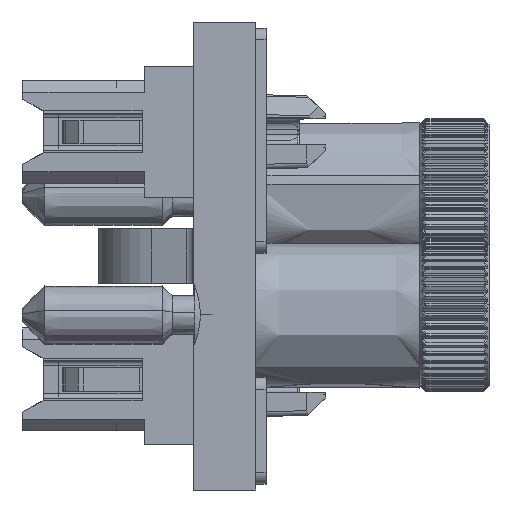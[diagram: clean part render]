
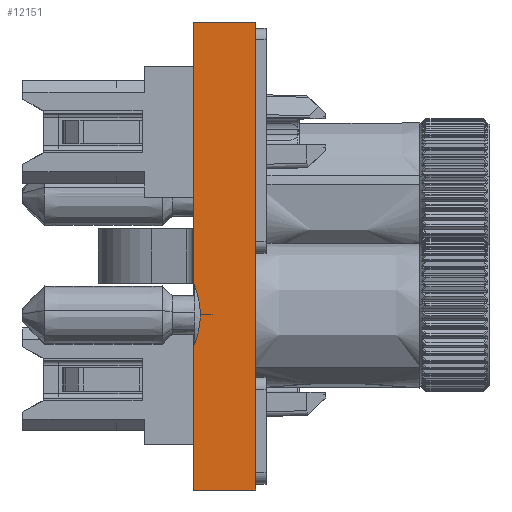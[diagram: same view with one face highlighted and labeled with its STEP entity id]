
A CAD part, front view. The second image highlights one B-rep face of the part: STEP entity #12151.
In plain terms, the highlighted planar face has unit normal (0, -1, 0).
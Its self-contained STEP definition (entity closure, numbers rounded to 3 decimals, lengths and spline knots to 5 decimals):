
#931=DIRECTION('',(0.,0.,-1.));
#932=VECTOR('',#931,0.27032);
#933=CARTESIAN_POINT('',(0.125,-0.56498,0.11509));
#934=LINE('',#933,#932);
#939=CARTESIAN_POINT('',(0.125,-0.56498,0.11509));
#983=DIRECTION('',(0.,0.,-1.));
#984=VECTOR('',#983,0.46975);
#985=CARTESIAN_POINT('',(0.125,-0.56501,0.63277));
#986=LINE('',#985,#984);
#1185=DIRECTION('',(-1.,0.,0.));
#1186=VECTOR('',#1185,0.105);
#1187=CARTESIAN_POINT('',(0.125,-0.56501,0.63277));
#1188=LINE('',#1187,#1186);
#1193=DIRECTION('',(0.,0.,1.));
#1194=VECTOR('',#1193,0.04793);
#1195=CARTESIAN_POINT('',(0.125,-0.56498,0.11509));
#1196=LINE('',#1195,#1194);
#1197=DIRECTION('',(-1.,0.,0.));
#1198=VECTOR('',#1197,0.105);
#1199=CARTESIAN_POINT('',(0.125,-0.56497,-0.15523));
#1200=LINE('',#1199,#1198);
#1201=CARTESIAN_POINT('',(0.02,-0.56498,0.08556));
#1202=CARTESIAN_POINT('',(0.02105,-0.56498,
0.08815));
#1203=CARTESIAN_POINT('',(0.02302,-0.56498,
0.09332));
#1204=CARTESIAN_POINT('',(0.0256,-0.56498,
0.10114));
#1205=CARTESIAN_POINT('',(0.02774,-0.56498,
0.10895));
#1206=CARTESIAN_POINT('',(0.02943,-0.56498,
0.11676));
#1207=CARTESIAN_POINT('',(0.03063,-0.56498,
0.12452));
#1208=CARTESIAN_POINT('',(0.03135,-0.56498,
0.13223));
#1209=CARTESIAN_POINT('',(0.0315,-0.56499,
0.13729));
#1210=CARTESIAN_POINT('',(0.0315,-0.56499,
0.13981));
#1212=CARTESIAN_POINT('',(0.0315,-0.56499,
0.13981));
#1213=CARTESIAN_POINT('',(0.0315,-0.56499,
0.14233));
#1214=CARTESIAN_POINT('',(0.03135,-0.56499,
0.1474));
#1215=CARTESIAN_POINT('',(0.03062,-0.56499,
0.15514));
#1216=CARTESIAN_POINT('',(0.02941,-0.56499,
0.16291));
#1217=CARTESIAN_POINT('',(0.02772,-0.56499,
0.17072));
#1218=CARTESIAN_POINT('',(0.02557,-0.56499,
0.17851));
#1219=CARTESIAN_POINT('',(0.02301,-0.56499,
0.18628));
#1220=CARTESIAN_POINT('',(0.02104,-0.56499,
0.19142));
#1221=CARTESIAN_POINT('',(0.02,-0.56499,0.19398));
#1275=DIRECTION('',(0.,0.,-1.));
#1276=VECTOR('',#1275,0.2408);
#1277=CARTESIAN_POINT('',(0.02,-0.56498,0.08556));
#1278=LINE('',#1277,#1276);
#1313=DIRECTION('',(0.,0.,-1.));
#1314=VECTOR('',#1313,0.43879);
#1315=CARTESIAN_POINT('',(0.02,-0.56501,0.63277));
#1316=LINE('',#1315,#1314);
#8605=CARTESIAN_POINT('',(0.125,-0.56497,-0.15523));
#8606=CARTESIAN_POINT('',(0.02,-0.56497,-0.15523));
#8607=VERTEX_POINT('',#8605);
#8608=VERTEX_POINT('',#8606);
#8609=CARTESIAN_POINT('',(0.125,-0.56501,0.63277));
#8610=CARTESIAN_POINT('',(0.02,-0.56501,0.63277));
#8611=VERTEX_POINT('',#8609);
#8612=VERTEX_POINT('',#8610);
#8697=VERTEX_POINT('',#1212);
#8698=VERTEX_POINT('',#1221);
#8705=VERTEX_POINT('',#1201);
#9348=VERTEX_POINT('',#939);
#9349=CARTESIAN_POINT('',(0.125,-0.56499,0.16301));
#9350=VERTEX_POINT('',#9349);
#12129=CARTESIAN_POINT('',(0.0725,-0.56499,0.23877));
#12130=DIRECTION('',(0.,-1.,0.));
#12131=DIRECTION('',(0.,0.,-1.));
#12132=AXIS2_PLACEMENT_3D('',#12129,#12130,#12131);
#12133=PLANE('',#12132);
#12135=ORIENTED_EDGE('',*,*,#12134,.F.);
#12136=ORIENTED_EDGE('',*,*,#11929,.T.);
#12138=ORIENTED_EDGE('',*,*,#12137,.T.);
#12140=ORIENTED_EDGE('',*,*,#12139,.F.);
#12142=ORIENTED_EDGE('',*,*,#12141,.T.);
#12144=ORIENTED_EDGE('',*,*,#12143,.T.);
#12146=ORIENTED_EDGE('',*,*,#12145,.F.);
#12147=ORIENTED_EDGE('',*,*,#12122,.F.);
#12148=ORIENTED_EDGE('',*,*,#11938,.T.);
#12149=EDGE_LOOP('',(#12135,#12136,#12138,#12140,#12142,#12144,#12146,#12147,
#12148));
#12150=FACE_OUTER_BOUND('',#12149,.F.);
#12151=ADVANCED_FACE('',(#12150),#12133,.T.);
#1211=B_SPLINE_CURVE_WITH_KNOTS('',3,(#1201,#1202,#1203,#1204,#1205,#1206,#1207,
#1208,#1209,#1210),.UNSPECIFIED.,.F.,.F.,(4,1,1,1,1,1,1,4),(0.,
0.14286,0.28571,0.42857,0.57143,
0.71429,0.85714,1.),.UNSPECIFIED.);
#1222=B_SPLINE_CURVE_WITH_KNOTS('',3,(#1212,#1213,#1214,#1215,#1216,#1217,#1218,
#1219,#1220,#1221),.UNSPECIFIED.,.F.,.F.,(4,1,1,1,1,1,1,4),(0.,
0.14286,0.28571,0.42857,0.57143,
0.71429,0.85714,1.),.UNSPECIFIED.);
#11929=EDGE_CURVE('',#9348,#8607,#934,.T.);
#11938=EDGE_CURVE('',#8611,#9350,#986,.T.);
#12122=EDGE_CURVE('',#8611,#8612,#1188,.T.);
#12134=EDGE_CURVE('',#9348,#9350,#1196,.T.);
#12137=EDGE_CURVE('',#8607,#8608,#1200,.T.);
#12139=EDGE_CURVE('',#8705,#8608,#1278,.T.);
#12141=EDGE_CURVE('',#8705,#8697,#1211,.T.);
#12143=EDGE_CURVE('',#8697,#8698,#1222,.T.);
#12145=EDGE_CURVE('',#8612,#8698,#1316,.T.);
